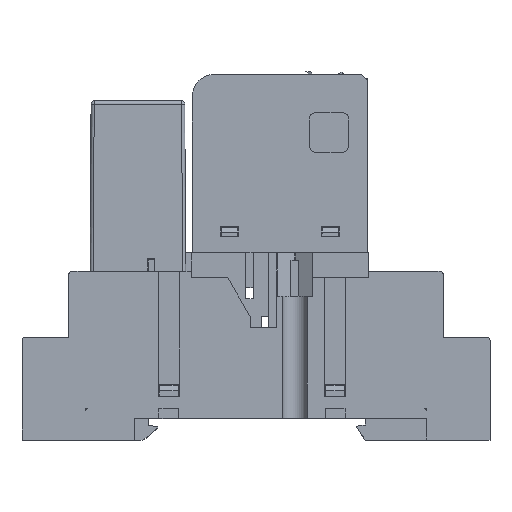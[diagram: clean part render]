
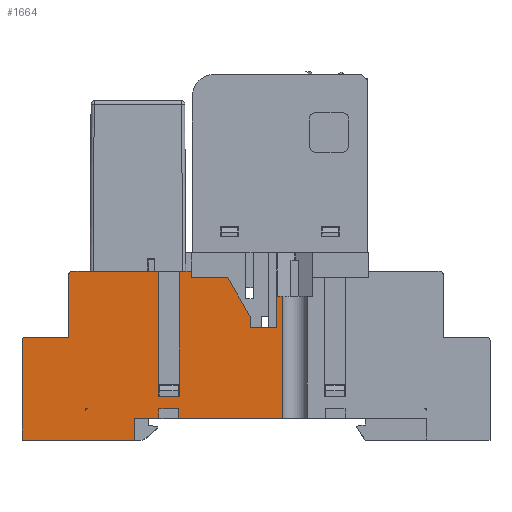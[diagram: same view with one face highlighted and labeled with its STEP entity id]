
A CAD part, top view. The second image highlights one B-rep face of the part: STEP entity #1664.
In plain terms, the highlighted planar face has unit normal (0, 0, 1).
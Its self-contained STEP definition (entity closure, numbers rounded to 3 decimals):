
#1664=ADVANCED_FACE('',(#33012,#33014),#33016,.T.);
#33012=FACE_BOUND('',#33013,.T.);
#33013=EDGE_LOOP('',(#62652,#62653,#62654,#62655,#62656,#62657,#62658,#62659,#62660,
#62661,#62662,#62663,#62664,#62665,#62666,#62667,#62668,#62669,#62670,#62671,#62672,
#62673,#62674,#62675,#62676));
#33014=FACE_BOUND('',#33015,.T.);
#33015=EDGE_LOOP('',(#62677,#62678,#62679));
#33016=PLANE('',#33017);
#33017=AXIS2_PLACEMENT_3D('',#33018,#33019,#33020);
#33018=CARTESIAN_POINT('',(-43.65,0.,15.));
#33019=DIRECTION('',(0.,0.,1.));
#33020=DIRECTION('',(1.,0.,0.));
#62652=ORIENTED_EDGE('',*,*,#81544,.T.);
#62653=ORIENTED_EDGE('',*,*,#81545,.T.);
#62654=ORIENTED_EDGE('',*,*,#81546,.T.);
#62655=ORIENTED_EDGE('',*,*,#81145,.F.);
#62656=ORIENTED_EDGE('',*,*,#81543,.F.);
#62657=ORIENTED_EDGE('',*,*,#81547,.T.);
#62658=ORIENTED_EDGE('',*,*,#81548,.T.);
#62659=ORIENTED_EDGE('',*,*,#81549,.F.);
#62660=ORIENTED_EDGE('',*,*,#81550,.F.);
#62661=ORIENTED_EDGE('',*,*,#81551,.T.);
#62662=ORIENTED_EDGE('',*,*,#81552,.T.);
#62663=ORIENTED_EDGE('',*,*,#81553,.F.);
#62664=ORIENTED_EDGE('',*,*,#81554,.T.);
#62665=ORIENTED_EDGE('',*,*,#81555,.T.);
#62666=ORIENTED_EDGE('',*,*,#81556,.T.);
#62667=ORIENTED_EDGE('',*,*,#81557,.F.);
#62668=ORIENTED_EDGE('',*,*,#81558,.T.);
#62669=ORIENTED_EDGE('',*,*,#81559,.F.);
#62670=ORIENTED_EDGE('',*,*,#81560,.T.);
#62671=ORIENTED_EDGE('',*,*,#81561,.T.);
#62672=ORIENTED_EDGE('',*,*,#81562,.T.);
#62673=ORIENTED_EDGE('',*,*,#81563,.T.);
#62674=ORIENTED_EDGE('',*,*,#81564,.T.);
#62675=ORIENTED_EDGE('',*,*,#81565,.T.);
#62676=ORIENTED_EDGE('',*,*,#81149,.F.);
#62677=ORIENTED_EDGE('',*,*,#81566,.T.);
#62678=ORIENTED_EDGE('',*,*,#81567,.T.);
#62679=ORIENTED_EDGE('',*,*,#81568,.F.);
#81145=EDGE_CURVE('',#91027,#91029,#91030,.T.);
#81149=EDGE_CURVE('',#91035,#91037,#91038,.T.);
#81543=EDGE_CURVE('',#91716,#91027,#91718,.F.);
#81544=EDGE_CURVE('',#91035,#91719,#91720,.F.);
#81545=EDGE_CURVE('',#91719,#91721,#91722,.F.);
#81546=EDGE_CURVE('',#91721,#91029,#91723,.F.);
#81547=EDGE_CURVE('',#91716,#91724,#91725,.F.);
#81548=EDGE_CURVE('',#91724,#91726,#91727,.T.);
#81549=EDGE_CURVE('',#91728,#91726,#91729,.F.);
#81550=EDGE_CURVE('',#91730,#91728,#91731,.T.);
#81551=EDGE_CURVE('',#91730,#91732,#91733,.T.);
#81552=EDGE_CURVE('',#91732,#91734,#91735,.T.);
#81553=EDGE_CURVE('',#91736,#91734,#91737,.T.);
#81554=EDGE_CURVE('',#91736,#91738,#91739,.F.);
#81555=EDGE_CURVE('',#91738,#91740,#91741,.F.);
#81556=EDGE_CURVE('',#91740,#91742,#91743,.F.);
#81557=EDGE_CURVE('',#91744,#91742,#91745,.T.);
#81558=EDGE_CURVE('',#91744,#91746,#91747,.T.);
#81559=EDGE_CURVE('',#91748,#91746,#91749,.T.);
#81560=EDGE_CURVE('',#91748,#91750,#91751,.F.);
#81561=EDGE_CURVE('',#91750,#91752,#91753,.F.);
#81562=EDGE_CURVE('',#91752,#91754,#91755,.F.);
#81563=EDGE_CURVE('',#91754,#91756,#91757,.F.);
#81564=EDGE_CURVE('',#91756,#91758,#91759,.F.);
#81565=EDGE_CURVE('',#91758,#91037,#91760,.F.);
#81566=EDGE_CURVE('',#91761,#91762,#91763,.F.);
#81567=EDGE_CURVE('',#91762,#91764,#91765,.F.);
#81568=EDGE_CURVE('',#91761,#91764,#91766,.F.);
#91027=VERTEX_POINT('',#107583);
#91029=VERTEX_POINT('',#107587);
#91030=LINE('',#107588,#107589);
#91035=VERTEX_POINT('',#107599);
#91037=VERTEX_POINT('',#107603);
#91038=LINE('',#107604,#107605);
#91716=VERTEX_POINT('',#109106);
#91718=CIRCLE('',#109110,0.5);
#91719=VERTEX_POINT('',#109114);
#91720=LINE('',#109115,#109116);
#91721=VERTEX_POINT('',#109118);
#91722=LINE('',#109119,#109120);
#91723=LINE('',#109122,#109123);
#91724=VERTEX_POINT('',#109125);
#91725=LINE('',#109126,#109127);
#91726=VERTEX_POINT('',#109129);
#91727=LINE('',#109130,#109131);
#91728=VERTEX_POINT('',#109133);
#91729=CIRCLE('',#109134,0.5);
#91730=VERTEX_POINT('',#109138);
#91731=LINE('',#109139,#109140);
#91732=VERTEX_POINT('',#109142);
#91733=LINE('',#109143,#109144);
#91734=VERTEX_POINT('',#109146);
#91735=LINE('',#109147,#109148);
#91736=VERTEX_POINT('',#109150);
#91737=LINE('',#109151,#109152);
#91738=VERTEX_POINT('',#109154);
#91739=LINE('',#109155,#109156);
#91740=VERTEX_POINT('',#109158);
#91741=LINE('',#109159,#109160);
#91742=VERTEX_POINT('',#109162);
#91743=LINE('',#109163,#109164);
#91744=VERTEX_POINT('',#109166);
#91745=LINE('',#109167,#109168);
#91746=VERTEX_POINT('',#109170);
#91747=LINE('',#109171,#109172);
#91748=VERTEX_POINT('',#109174);
#91749=LINE('',#109175,#109176);
#91750=VERTEX_POINT('',#109178);
#91751=LINE('',#109179,#109180);
#91752=VERTEX_POINT('',#109182);
#91753=LINE('',#109183,#109184);
#91754=VERTEX_POINT('',#109186);
#91755=LINE('',#109187,#109188);
#91756=VERTEX_POINT('',#109190);
#91757=LINE('',#109191,#109192);
#91758=VERTEX_POINT('',#109194);
#91759=LINE('',#109195,#109196);
#91760=LINE('',#109198,#109199);
#91761=VERTEX_POINT('',#109201);
#91762=VERTEX_POINT('',#109202);
#91763=LINE('',#109203,#109204);
#91764=VERTEX_POINT('',#109206);
#91765=LINE('',#109207,#109208);
#91766=CIRCLE('',#109210,0.3);
#107583=CARTESIAN_POINT('',(-35.65,27.,15.));
#107587=CARTESIAN_POINT('',(-21.85,27.,15.));
#107588=CARTESIAN_POINT('',(-35.65,27.,15.));
#107589=VECTOR('',#107590,1.);
#107590=DIRECTION('',(1.,0.,0.));
#107599=CARTESIAN_POINT('',(-18.45,27.,15.));
#107603=CARTESIAN_POINT('',(-16.55,27.,15.));
#107604=CARTESIAN_POINT('',(-18.45,27.,15.));
#107605=VECTOR('',#107606,1.);
#107606=DIRECTION('',(1.,0.,0.));
#109106=CARTESIAN_POINT('',(-36.15,26.5,15.));
#109110=AXIS2_PLACEMENT_3D('',#109111,#109112,#109113);
#109111=CARTESIAN_POINT('',(-35.65,26.5,15.));
#109112=DIRECTION('',(0.,-0.,1.));
#109113=DIRECTION('',(0.,1.,0.));
#109114=CARTESIAN_POINT('',(-18.45,7.,15.));
#109115=CARTESIAN_POINT('',(-18.45,7.,15.));
#109116=VECTOR('',#109117,1.);
#109117=DIRECTION('',(0.,1.,0.));
#109118=CARTESIAN_POINT('',(-21.85,7.,15.));
#109119=CARTESIAN_POINT('',(-21.85,7.,15.));
#109120=VECTOR('',#109121,1.);
#109121=DIRECTION('',(1.,0.,0.));
#109122=CARTESIAN_POINT('',(-21.85,27.,15.));
#109123=VECTOR('',#109124,1.);
#109124=DIRECTION('',(0.,-1.,0.));
#109125=CARTESIAN_POINT('',(-36.15,16.5,15.));
#109126=CARTESIAN_POINT('',(-36.15,16.5,15.));
#109127=VECTOR('',#109128,1.);
#109128=DIRECTION('',(0.,1.,0.));
#109129=CARTESIAN_POINT('',(-43.15,16.5,15.));
#109130=CARTESIAN_POINT('',(-36.15,16.5,15.));
#109131=VECTOR('',#109132,1.);
#109132=DIRECTION('',(-1.,0.,0.));
#109133=CARTESIAN_POINT('',(-43.65,16.,15.));
#109134=AXIS2_PLACEMENT_3D('',#109135,#109136,#109137);
#109135=CARTESIAN_POINT('',(-43.15,16.,15.));
#109136=DIRECTION('',(0.,-0.,1.));
#109137=DIRECTION('',(0.,1.,0.));
#109138=CARTESIAN_POINT('',(-43.65,0.,15.));
#109139=CARTESIAN_POINT('',(-43.65,0.,15.));
#109140=VECTOR('',#109141,1.);
#109141=DIRECTION('',(0.,1.,0.));
#109142=CARTESIAN_POINT('',(-25.65,0.,15.));
#109143=CARTESIAN_POINT('',(-43.65,0.,15.));
#109144=VECTOR('',#109145,1.);
#109145=DIRECTION('',(1.,0.,0.));
#109146=CARTESIAN_POINT('',(-25.65,3.5,15.));
#109147=CARTESIAN_POINT('',(-25.65,0.,15.));
#109148=VECTOR('',#109149,1.);
#109149=DIRECTION('',(0.,1.,0.));
#109150=CARTESIAN_POINT('',(-21.75,3.5,15.));
#109151=CARTESIAN_POINT('',(-21.75,3.5,15.));
#109152=VECTOR('',#109153,1.);
#109153=DIRECTION('',(-1.,0.,0.));
#109154=CARTESIAN_POINT('',(-21.75,5.,15.));
#109155=CARTESIAN_POINT('',(-21.75,5.,15.));
#109156=VECTOR('',#109157,1.);
#109157=DIRECTION('',(0.,-1.,0.));
#109158=CARTESIAN_POINT('',(-18.55,5.,15.));
#109159=CARTESIAN_POINT('',(-18.55,5.,15.));
#109160=VECTOR('',#109161,1.);
#109161=DIRECTION('',(-1.,0.,0.));
#109162=CARTESIAN_POINT('',(-18.55,3.5,15.));
#109163=CARTESIAN_POINT('',(-18.55,3.5,15.));
#109164=VECTOR('',#109165,1.);
#109165=DIRECTION('',(0.,1.,0.));
#109166=CARTESIAN_POINT('',(-2.,3.5,15.));
#109167=CARTESIAN_POINT('',(-2.,3.5,15.));
#109168=VECTOR('',#109169,1.);
#109169=DIRECTION('',(-1.,0.,0.));
#109170=CARTESIAN_POINT('',(-2.,23.,15.));
#109171=CARTESIAN_POINT('',(-2.,3.5,15.));
#109172=VECTOR('',#109173,1.);
#109173=DIRECTION('',(0.,1.,0.));
#109174=CARTESIAN_POINT('',(-2.9,23.,15.));
#109175=CARTESIAN_POINT('',(-2.9,23.,15.));
#109176=VECTOR('',#109177,1.);
#109177=DIRECTION('',(1.,0.,0.));
#109178=CARTESIAN_POINT('',(-2.9,18.,15.));
#109179=CARTESIAN_POINT('',(-2.9,18.,15.));
#109180=VECTOR('',#109181,1.);
#109181=DIRECTION('',(0.,1.,0.));
#109182=CARTESIAN_POINT('',(-7.15,18.,15.));
#109183=CARTESIAN_POINT('',(-7.15,18.,15.));
#109184=VECTOR('',#109185,1.);
#109185=DIRECTION('',(1.,0.,0.));
#109186=CARTESIAN_POINT('',(-7.15,19.8,15.));
#109187=CARTESIAN_POINT('',(-7.15,19.8,15.));
#109188=VECTOR('',#109189,1.);
#109189=DIRECTION('',(0.,-1.,0.));
#109190=CARTESIAN_POINT('',(-10.73,26.,15.));
#109191=CARTESIAN_POINT('',(-10.73,26.,15.));
#109192=VECTOR('',#109193,1.);
#109193=DIRECTION('',(0.5,-0.866,0.));
#109194=CARTESIAN_POINT('',(-16.55,26.,15.));
#109195=CARTESIAN_POINT('',(-16.55,26.,15.));
#109196=VECTOR('',#109197,1.);
#109197=DIRECTION('',(1.,0.,0.));
#109198=CARTESIAN_POINT('',(-16.55,27.,15.));
#109199=VECTOR('',#109200,1.);
#109200=DIRECTION('',(0.,-1.,0.));
#109201=CARTESIAN_POINT('',(-33.45,4.7,15.));
#109202=CARTESIAN_POINT('',(-33.45,5.,15.));
#109203=CARTESIAN_POINT('',(-33.45,5.,15.));
#109204=VECTOR('',#109205,1.);
#109205=DIRECTION('',(0.,-1.,0.));
#109206=CARTESIAN_POINT('',(-33.15,5.,15.));
#109207=CARTESIAN_POINT('',(-33.15,5.,15.));
#109208=VECTOR('',#109209,1.);
#109209=DIRECTION('',(-1.,0.,0.));
#109210=AXIS2_PLACEMENT_3D('',#109211,#109212,#109213);
#109211=CARTESIAN_POINT('',(-33.15,4.7,15.));
#109212=DIRECTION('',(0.,-0.,1.));
#109213=DIRECTION('',(0.,1.,0.));
